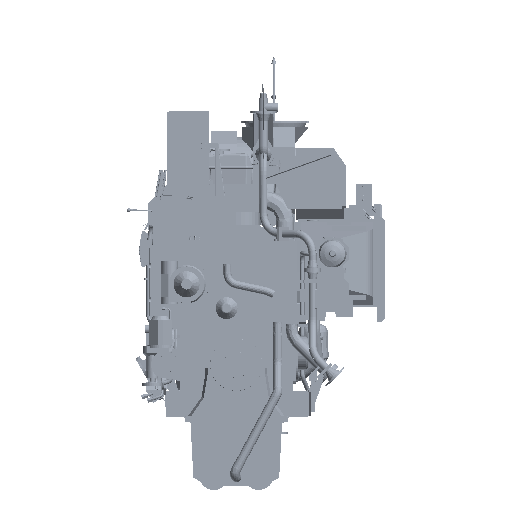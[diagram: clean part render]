
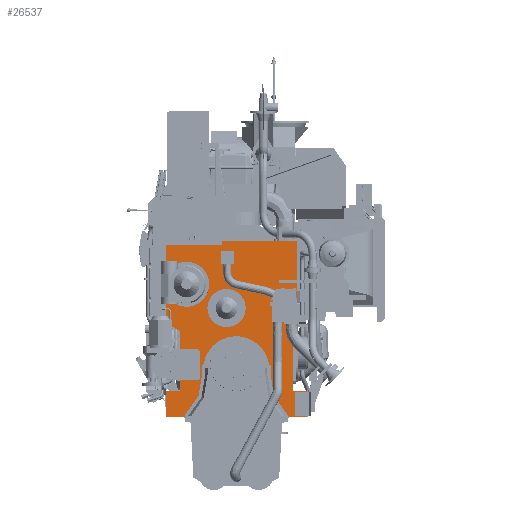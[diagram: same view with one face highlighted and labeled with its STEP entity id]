
A CAD part, left-side view. The second image highlights one B-rep face of the part: STEP entity #26537.
In plain terms, the highlighted planar face has unit normal (-1, 0, 0).
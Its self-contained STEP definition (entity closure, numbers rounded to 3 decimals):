
#16725=FACE_OUTER_BOUND('',#82407,.T.);
#26537=ADVANCED_FACE('',(#16725),#38153,.F.);
#38153=PLANE('',#202512);
#44407=LINE('',#268437,#60812);
#44411=LINE('',#268466,#60816);
#44415=LINE('',#268495,#60820);
#44419=LINE('',#268524,#60824);
#44422=LINE('',#268549,#60827);
#44435=LINE('',#268600,#60840);
#44443=LINE('',#268784,#60848);
#44460=LINE('',#269543,#60865);
#44466=LINE('',#269553,#60871);
#44471=LINE('',#269561,#60876);
#44474=LINE('',#269567,#60879);
#44476=LINE('',#269570,#60881);
#44479=LINE('',#269576,#60884);
#44481=LINE('',#269579,#60886);
#44483=LINE('',#269582,#60888);
#44486=LINE('',#269588,#60891);
#44489=LINE('',#269594,#60894);
#44491=LINE('',#269597,#60896);
#44492=LINE('',#269599,#60897);
#60812=VECTOR('',#218673,1.);
#60816=VECTOR('',#218699,1.);
#60820=VECTOR('',#218725,1.);
#60824=VECTOR('',#218751,1.);
#60827=VECTOR('',#218774,1.);
#60840=VECTOR('',#218813,1.);
#60848=VECTOR('',#218831,1.);
#60865=VECTOR('',#218884,1.);
#60871=VECTOR('',#218894,1.);
#60876=VECTOR('',#218901,1.);
#60879=VECTOR('',#218906,1.);
#60881=VECTOR('',#218910,1.);
#60884=VECTOR('',#218915,1.);
#60886=VECTOR('',#218919,1.);
#60888=VECTOR('',#218923,1.);
#60891=VECTOR('',#218928,1.);
#60894=VECTOR('',#218933,1.);
#60896=VECTOR('',#218937,1.);
#60897=VECTOR('',#218940,1.);
#82407=EDGE_LOOP('',(#96583,#96584,#96585,#96586,#96587,#96588,#96589,#96590,
#96591,#96592,#96593,#96594,#96595,#96596,#96597,#96598,#96599,#96600,#96601,
#96602));
#96583=ORIENTED_EDGE('',*,*,#169648,.T.);
#96584=ORIENTED_EDGE('',*,*,#169724,.T.);
#96585=ORIENTED_EDGE('',*,*,#169756,.F.);
#96586=ORIENTED_EDGE('',*,*,#169730,.T.);
#96587=ORIENTED_EDGE('',*,*,#169594,.T.);
#96588=ORIENTED_EDGE('',*,*,#169735,.T.);
#96589=ORIENTED_EDGE('',*,*,#169608,.T.);
#96590=ORIENTED_EDGE('',*,*,#169738,.T.);
#96591=ORIENTED_EDGE('',*,*,#169740,.T.);
#96592=ORIENTED_EDGE('',*,*,#169673,.T.);
#96593=ORIENTED_EDGE('',*,*,#169714,.T.);
#96594=ORIENTED_EDGE('',*,*,#169686,.T.);
#96595=ORIENTED_EDGE('',*,*,#169743,.T.);
#96596=ORIENTED_EDGE('',*,*,#169745,.T.);
#96597=ORIENTED_EDGE('',*,*,#169622,.T.);
#96598=ORIENTED_EDGE('',*,*,#169747,.T.);
#96599=ORIENTED_EDGE('',*,*,#169636,.T.);
#96600=ORIENTED_EDGE('',*,*,#169750,.T.);
#96601=ORIENTED_EDGE('',*,*,#169753,.T.);
#96602=ORIENTED_EDGE('',*,*,#169755,.T.);
#151318=VERTEX_POINT('',#268436);
#151319=VERTEX_POINT('',#268438);
#151332=VERTEX_POINT('',#268465);
#151333=VERTEX_POINT('',#268467);
#151346=VERTEX_POINT('',#268494);
#151347=VERTEX_POINT('',#268496);
#151360=VERTEX_POINT('',#268523);
#151361=VERTEX_POINT('',#268525);
#151371=VERTEX_POINT('',#268547);
#151373=VERTEX_POINT('',#268550);
#151397=VERTEX_POINT('',#268599);
#151398=VERTEX_POINT('',#268601);
#151406=VERTEX_POINT('',#268783);
#151407=VERTEX_POINT('',#268785);
#151428=VERTEX_POINT('',#269542);
#151431=VERTEX_POINT('',#269554);
#151434=VERTEX_POINT('',#269566);
#151436=VERTEX_POINT('',#269575);
#151438=VERTEX_POINT('',#269587);
#151440=VERTEX_POINT('',#269593);
#169594=EDGE_CURVE('',#151319,#151318,#44407,.T.);
#169608=EDGE_CURVE('',#151333,#151332,#44411,.T.);
#169622=EDGE_CURVE('',#151347,#151346,#44415,.T.);
#169636=EDGE_CURVE('',#151361,#151360,#44419,.T.);
#169648=EDGE_CURVE('',#151373,#151371,#44422,.T.);
#169673=EDGE_CURVE('',#151398,#151397,#44435,.T.);
#169686=EDGE_CURVE('',#151407,#151406,#44443,.T.);
#169714=EDGE_CURVE('',#151397,#151407,#197120,.T.);
#169724=EDGE_CURVE('',#151371,#151428,#44460,.T.);
#169730=EDGE_CURVE('',#151431,#151319,#44466,.T.);
#169735=EDGE_CURVE('',#151318,#151333,#44471,.T.);
#169738=EDGE_CURVE('',#151332,#151434,#44474,.T.);
#169740=EDGE_CURVE('',#151434,#151398,#44476,.T.);
#169743=EDGE_CURVE('',#151406,#151436,#44479,.T.);
#169745=EDGE_CURVE('',#151436,#151347,#44481,.T.);
#169747=EDGE_CURVE('',#151346,#151361,#44483,.T.);
#169750=EDGE_CURVE('',#151360,#151438,#44486,.T.);
#169753=EDGE_CURVE('',#151438,#151440,#44489,.T.);
#169755=EDGE_CURVE('',#151440,#151373,#44491,.T.);
#169756=EDGE_CURVE('',#151431,#151428,#44492,.T.);
#197120=CIRCLE('',#202496,177.);
#202496=AXIS2_PLACEMENT_3D('',#269522,#218867,#218868);
#202512=AXIS2_PLACEMENT_3D('',#269600,#218941,#218942);
#218673=DIRECTION('',(0.,1.,0.));
#218699=DIRECTION('',(0.,-1.,0.));
#218725=DIRECTION('',(0.,-1.,0.));
#218751=DIRECTION('',(0.,1.,0.));
#218774=DIRECTION('',(0.,1.,0.));
#218813=DIRECTION('',(0.,-1.,0.));
#218831=DIRECTION('',(0.,-1.,0.));
#218867=DIRECTION('',(1.,0.,0.));
#218868=DIRECTION('',(0.,-1.,0.));
#218884=DIRECTION('',(0.,0.,-1.));
#218894=DIRECTION('',(0.,0.,-1.));
#218901=DIRECTION('',(0.,0.,-1.));
#218906=DIRECTION('',(0.,-0.577,0.817));
#218910=DIRECTION('',(0.,0.,1.));
#218915=DIRECTION('',(0.,0.,-1.));
#218919=DIRECTION('',(0.,-0.577,-0.817));
#218923=DIRECTION('',(0.,0.,1.));
#218928=DIRECTION('',(0.,0.,1.));
#218933=DIRECTION('',(0.,-1.,0.));
#218937=DIRECTION('',(0.,0.,1.));
#218940=DIRECTION('',(0.,0.866,0.5));
#218941=DIRECTION('',(1.,0.,0.));
#218942=DIRECTION('',(0.,0.,-1.));
#268436=CARTESIAN_POINT('',(-4650.,675.,-250.));
#268437=CARTESIAN_POINT('',(-4650.,540.,-250.));
#268438=CARTESIAN_POINT('',(-4650.,540.,-250.));
#268465=CARTESIAN_POINT('',(-4650.,450.,-500.));
#268466=CARTESIAN_POINT('',(-4650.,675.,-500.));
#268467=CARTESIAN_POINT('',(-4650.,675.,-500.));
#268494=CARTESIAN_POINT('',(-4650.,-675.,-500.));
#268495=CARTESIAN_POINT('',(-4650.,-450.,-500.));
#268496=CARTESIAN_POINT('',(-4650.,-450.,-500.));
#268523=CARTESIAN_POINT('',(-4650.,-540.,-250.));
#268524=CARTESIAN_POINT('',(-4650.,-675.,-250.));
#268525=CARTESIAN_POINT('',(-4650.,-675.,-250.));
#268547=CARTESIAN_POINT('',(-4650.,675.,1180.));
#268549=CARTESIAN_POINT('',(-4650.,-585.,1180.));
#268550=CARTESIAN_POINT('',(-4650.,-585.,1180.));
#268599=CARTESIAN_POINT('',(-4650.,177.,0.));
#268600=CARTESIAN_POINT('',(-4650.,330.,0.));
#268601=CARTESIAN_POINT('',(-4650.,330.,0.));
#268783=CARTESIAN_POINT('',(-4650.,-330.,0.));
#268784=CARTESIAN_POINT('',(-4650.,-177.,0.));
#268785=CARTESIAN_POINT('',(-4650.,-177.,0.));
#269522=CARTESIAN_POINT('',(-4650.,0.,0.));
#269542=CARTESIAN_POINT('',(-4650.,675.,400.));
#269543=CARTESIAN_POINT('',(-4650.,675.,1055.));
#269553=CARTESIAN_POINT('',(-4650.,540.,482.058));
#269554=CARTESIAN_POINT('',(-4650.,540.,322.058));
#269561=CARTESIAN_POINT('',(-4650.,675.,-250.));
#269566=CARTESIAN_POINT('',(-4650.,330.,-330.));
#269567=CARTESIAN_POINT('',(-4650.,450.,-500.));
#269570=CARTESIAN_POINT('',(-4650.,330.,-330.));
#269575=CARTESIAN_POINT('',(-4650.,-330.,-330.));
#269576=CARTESIAN_POINT('',(-4650.,-330.,0.));
#269579=CARTESIAN_POINT('',(-4650.,-330.,-330.));
#269582=CARTESIAN_POINT('',(-4650.,-675.,-500.));
#269587=CARTESIAN_POINT('',(-4650.,-540.,430.03));
#269588=CARTESIAN_POINT('',(-4650.,-540.,-250.));
#269593=CARTESIAN_POINT('',(-4650.,-585.,430.03));
#269594=CARTESIAN_POINT('',(-4650.,-540.,430.03));
#269597=CARTESIAN_POINT('',(-4650.,-585.,430.03));
#269599=CARTESIAN_POINT('',(-4650.,531.676,317.252));
#269600=CARTESIAN_POINT('',(-4650.,0.,0.));
